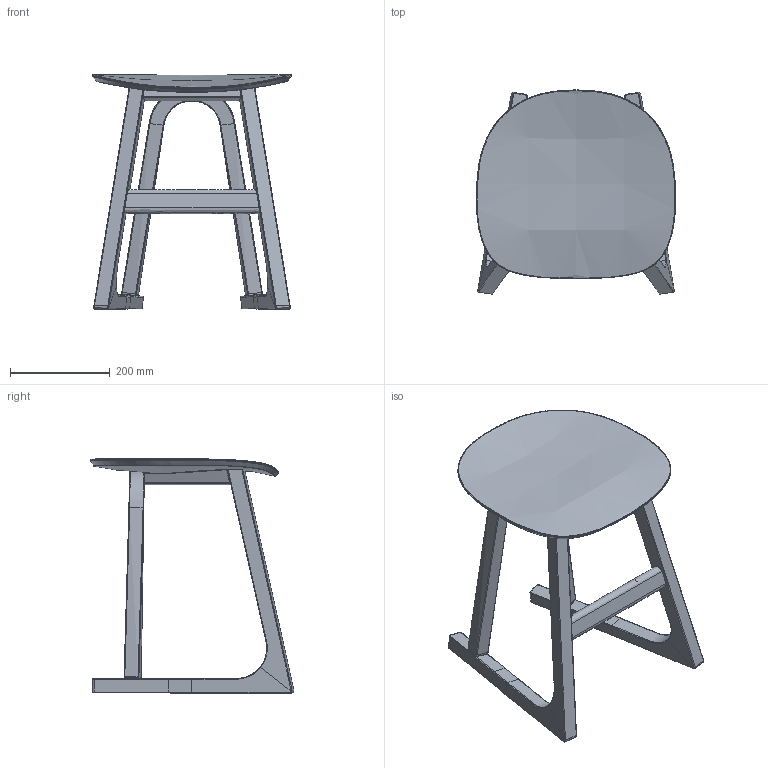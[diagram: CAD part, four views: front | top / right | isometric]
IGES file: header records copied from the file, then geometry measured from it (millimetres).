
Global section: file name: E:\Alessio_SK_PC\PROGETTI\Cantarutti - Sprint\Sprint 2020 - 2D+3D\Sprint2020_Basso_3D.igs; native system: Rhinoceros ( Sep 13 2016 ); preprocessor: Trout Lake IGES 012 Sep 13 2016; date: 200417.093518; units: millimetre
Bounding box: 400.32 x 409.25 x 470.4 mm (x, y, z)
Surface area: 676294.3 mm2 (no closed solid volume)
Topology: 0 solids, 0 shells, 257 faces, 1354 edges, 1355 vertices
Faces by surface type: bspline 257
